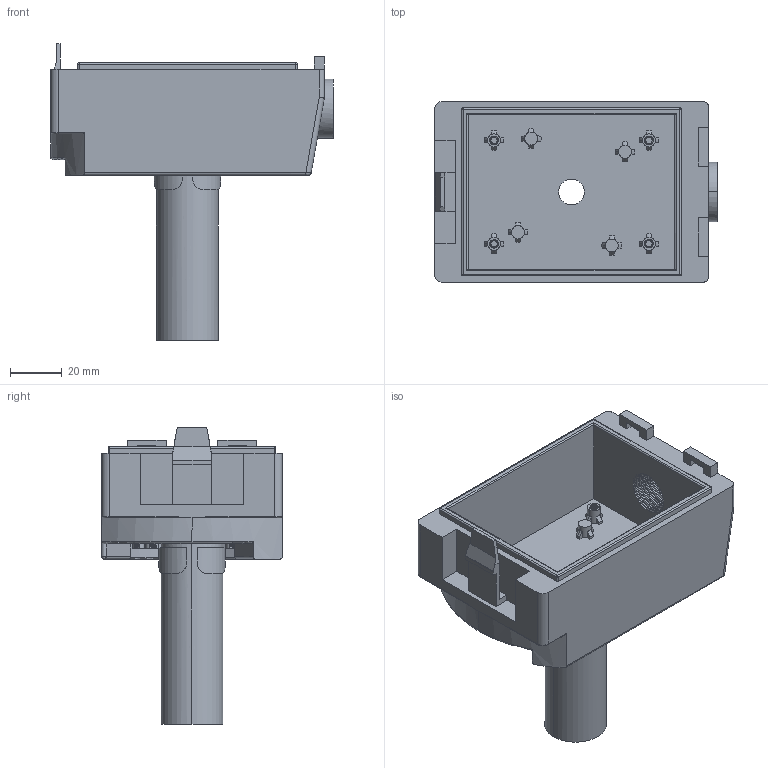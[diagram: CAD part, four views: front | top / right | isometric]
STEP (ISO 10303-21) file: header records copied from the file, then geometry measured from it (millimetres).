
FILE_DESCRIPTION (( 'STEP AP214' ), '1' );
FILE_NAME ('01_Vohop.stp', '2020-02-06T04:09:36', ( '' ), ( '' ), 'SwSTEP 2.0', 'SolidWorks 2019', '' );
FILE_SCHEMA (( 'AUTOMOTIVE_DESIGN' ));
Length unit declared in the file: millimetre
Products named in the file (1): 01_Vohop
Bounding box: 109.5 x 70 x 115 mm (x, y, z)
Volume: 117684.8 mm3; surface area: 53708.8 mm2
Topology: 1 solids, 1 shells, 623 faces, 1732 edges, 1127 vertices
Faces by surface type: cylinder 309, plane 178, bspline 85, cone 40, sphere 7, torus 4
Entity records: 45833 total; most frequent: CARTESIAN_POINT 31660, ORIENTED_EDGE 3446, DIRECTION 2487, EDGE_CURVE 1723, VERTEX_POINT 1127, AXIS2_PLACEMENT_3D 894, LINE 699, VECTOR 699
